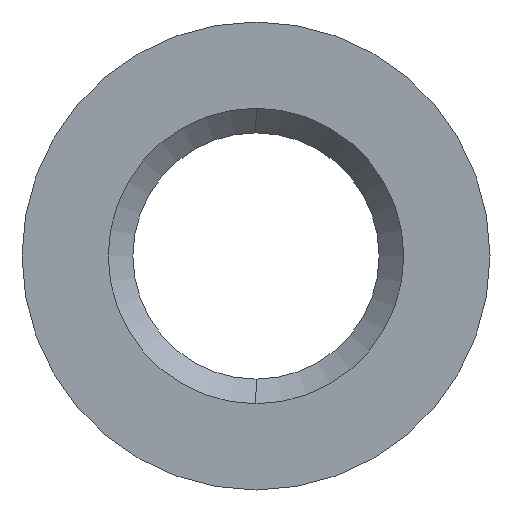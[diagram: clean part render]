
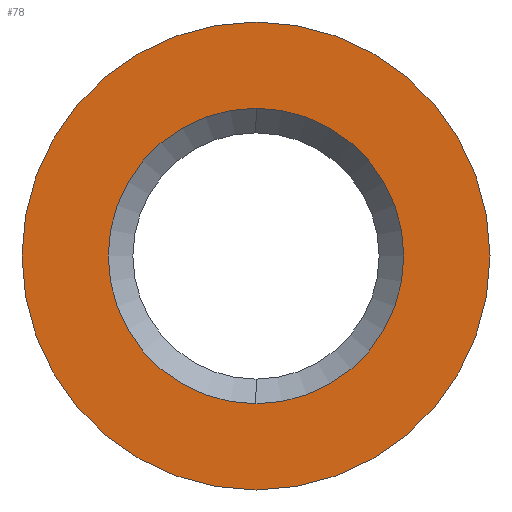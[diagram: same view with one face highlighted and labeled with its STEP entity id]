
A CAD part, left-side view. The second image highlights one B-rep face of the part: STEP entity #78.
In plain terms, the highlighted planar face has unit normal (-1, 0, 0).
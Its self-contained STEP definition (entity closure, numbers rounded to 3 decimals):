
#5 = CARTESIAN_POINT ( 'NONE',  ( -14.02, 0., 0. ) ) ;
#78 = ADVANCED_FACE ( 'NONE', ( #530, #783 ), #553, .T. ) ;
#120 = DIRECTION ( 'NONE',  ( 1., 0., 0. ) ) ;
#145 = ORIENTED_EDGE ( 'NONE', *, *, #301, .T. ) ;
#201 = DIRECTION ( 'NONE',  ( 0., 0., 1. ) ) ;
#241 = ORIENTED_EDGE ( 'NONE', *, *, #968, .T. ) ;
#258 = EDGE_LOOP ( 'NONE', ( #145, #241 ) ) ;
#263 = EDGE_CURVE ( 'NONE', #693, #861, #831, .T. ) ;
#301 = EDGE_CURVE ( 'NONE', #475, #995, #1212, .T. ) ;
#447 = CARTESIAN_POINT ( 'NONE',  ( -14.02, 0., -3. ) ) ;
#451 = DIRECTION ( 'NONE',  ( -1., 0., 0. ) ) ;
#470 = DIRECTION ( 'NONE',  ( 1., 0., 0. ) ) ;
#475 = VERTEX_POINT ( 'NONE', #696 ) ;
#484 = CARTESIAN_POINT ( 'NONE',  ( -14.02, 0., 0. ) ) ;
#530 = FACE_BOUND ( 'NONE', #258, .T. ) ;
#553 = PLANE ( 'NONE',  #815 ) ;
#556 = CARTESIAN_POINT ( 'NONE',  ( -14.02, 0., 0. ) ) ;
#597 = EDGE_CURVE ( 'NONE', #861, #693, #1365, .T. ) ;
#693 = VERTEX_POINT ( 'NONE', #720 ) ;
#696 = CARTESIAN_POINT ( 'NONE',  ( -14.02, 0., 3. ) ) ;
#720 = CARTESIAN_POINT ( 'NONE',  ( -14.02, 0., -4.75 ) ) ;
#724 = ORIENTED_EDGE ( 'NONE', *, *, #263, .F. ) ;
#734 = AXIS2_PLACEMENT_3D ( 'NONE', #871, #1453, #1364 ) ;
#774 = DIRECTION ( 'NONE',  ( 0., 0., 1. ) ) ;
#783 = FACE_OUTER_BOUND ( 'NONE', #1137, .T. ) ;
#815 = AXIS2_PLACEMENT_3D ( 'NONE', #1461, #451, #201 ) ;
#825 = DIRECTION ( 'NONE',  ( 1., 0., 0. ) ) ;
#831 = CIRCLE ( 'NONE', #1423, 4.75 ) ;
#833 = AXIS2_PLACEMENT_3D ( 'NONE', #484, #470, #919 ) ;
#861 = VERTEX_POINT ( 'NONE', #864 ) ;
#864 = CARTESIAN_POINT ( 'NONE',  ( -14.02, 0., 4.75 ) ) ;
#871 = CARTESIAN_POINT ( 'NONE',  ( -14.02, 0., 0. ) ) ;
#919 = DIRECTION ( 'NONE',  ( 0., 0., 1. ) ) ;
#944 = ORIENTED_EDGE ( 'NONE', *, *, #597, .F. ) ;
#968 = EDGE_CURVE ( 'NONE', #995, #475, #1006, .T. ) ;
#995 = VERTEX_POINT ( 'NONE', #447 ) ;
#1006 = CIRCLE ( 'NONE', #1195, 3. ) ;
#1137 = EDGE_LOOP ( 'NONE', ( #724, #944 ) ) ;
#1195 = AXIS2_PLACEMENT_3D ( 'NONE', #556, #120, #774 ) ;
#1212 = CIRCLE ( 'NONE', #833, 3. ) ;
#1278 = DIRECTION ( 'NONE',  ( 0., 0., -1. ) ) ;
#1364 = DIRECTION ( 'NONE',  ( 0., 0., -1. ) ) ;
#1365 = CIRCLE ( 'NONE', #734, 4.75 ) ;
#1423 = AXIS2_PLACEMENT_3D ( 'NONE', #5, #825, #1278 ) ;
#1453 = DIRECTION ( 'NONE',  ( 1., 0., 0. ) ) ;
#1461 = CARTESIAN_POINT ( 'NONE',  ( -14.02, 4.75, 0. ) ) ;
